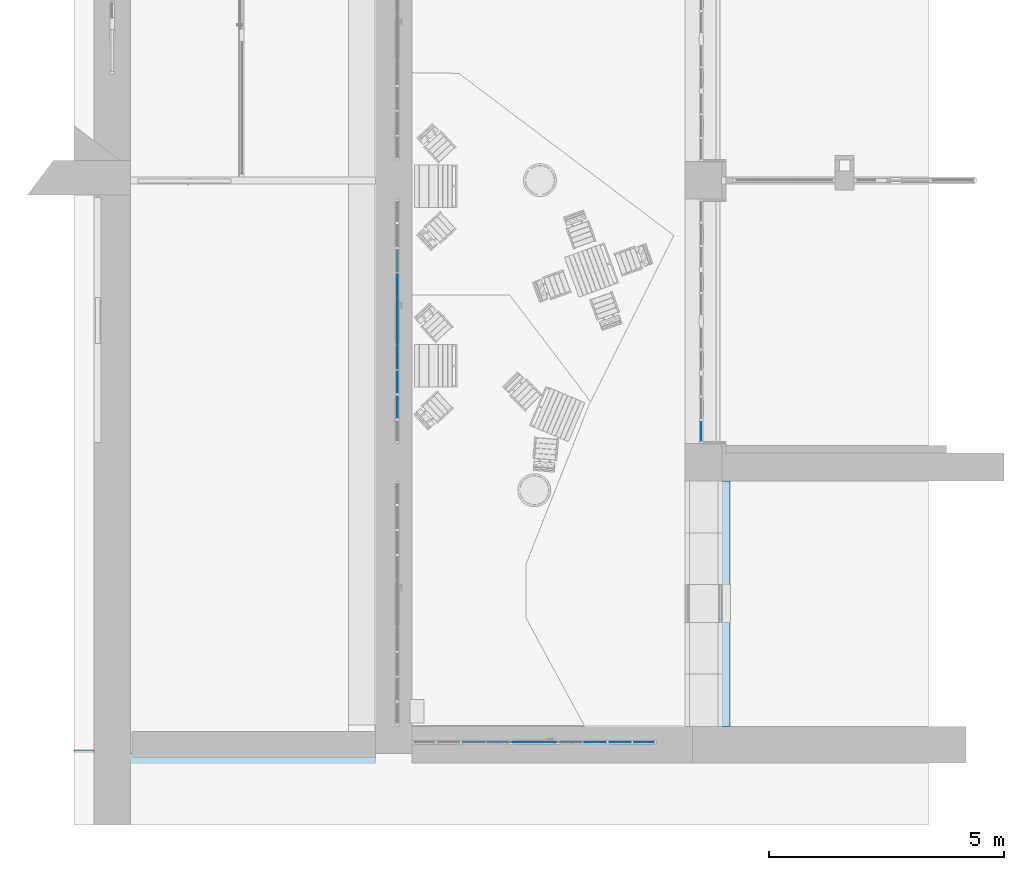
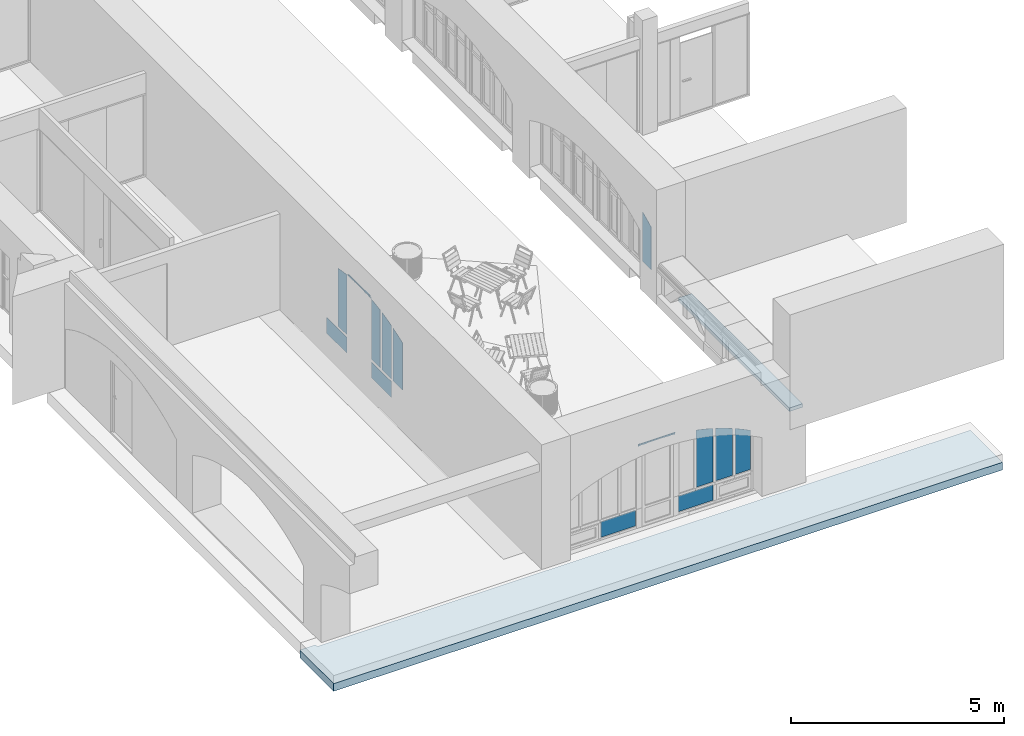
# One storey, part 51 of 88: 14 plates, 2 slabs, 4 elements without a shape of their own.
"""IFC2X3 building model written with IfcOpenShell, lengths in millimetres."""

from ifc_helpers import new_model, entity, si_unit, converted_unit, derived_unit, direction, frame, frame_2d, origin, origin_2d_with_axis, place, context, subcontext, project, spatial, polyline, circle_curve, parameter, trimmed, segment, composite_curve, rectangle, outline, extrude, face_set, surface_model, source, transform, mapped, material, layer, layer_set, layer_usage, type_object, type_shapes, element, aggregate, save


model = new_model("IFC2X3")

# Units and contexts
model_context = context("Model", 3, precision=0.01, world=origin(), true_north=direction((6.123031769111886e-17, 1.0)))
body_context = subcontext(model_context, "Body", "Model", "MODEL_VIEW")
ifc_project = project(units=[si_unit("LENGTHUNIT", "METRE", prefix="MILLI"), si_unit("AREAUNIT", "SQUARE_METRE"), si_unit("VOLUMEUNIT", "CUBIC_METRE"), converted_unit("PLANEANGLEUNIT", "DEGREE", entity("IfcPlaneAngleMeasure", 0.017453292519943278), si_unit("PLANEANGLEUNIT", "RADIAN"), dimensions=[0, 0, 0, 0, 0, 0, 0]), si_unit("MASSUNIT", "GRAM", prefix="KILO"), derived_unit("MASSDENSITYUNIT", [(si_unit("MASSUNIT", "GRAM", prefix="KILO"), 1), (si_unit("LENGTHUNIT", "METRE"), -3)]), derived_unit("IONCONCENTRATIONUNIT", [(si_unit("MASSUNIT", "GRAM", prefix="KILO"), 1), (si_unit("LENGTHUNIT", "METRE"), -3)]), derived_unit("MOMENTOFINERTIAUNIT", [(si_unit("LENGTHUNIT", "METRE"), 4)]), si_unit("TIMEUNIT", "SECOND"), si_unit("FREQUENCYUNIT", "HERTZ"), si_unit("THERMODYNAMICTEMPERATUREUNIT", "DEGREE_CELSIUS"), derived_unit("THERMALTRANSMITTANCEUNIT", [(si_unit("MASSUNIT", "GRAM", prefix="KILO"), 1), (si_unit("THERMODYNAMICTEMPERATUREUNIT", "KELVIN"), -1), (si_unit("TIMEUNIT", "SECOND"), -3)]), derived_unit("THERMALCONDUCTANCEUNIT", [(si_unit("MASSUNIT", "GRAM", prefix="KILO"), 1), (si_unit("THERMODYNAMICTEMPERATUREUNIT", "KELVIN"), -1), (si_unit("TIMEUNIT", "SECOND"), -3), (si_unit("LENGTHUNIT", "METRE"), 1)]), derived_unit("VOLUMETRICFLOWRATEUNIT", [(si_unit("LENGTHUNIT", "METRE", prefix="DECI"), 3), (si_unit("TIMEUNIT", "SECOND"), -1)]), derived_unit("MASSFLOWRATEUNIT", [(si_unit("MASSUNIT", "GRAM", prefix="KILO"), 1), (si_unit("TIMEUNIT", "SECOND"), -1)]), derived_unit("ROTATIONALFREQUENCYUNIT", [(si_unit("TIMEUNIT", "SECOND"), -1)]), si_unit("ELECTRICCURRENTUNIT", "AMPERE"), si_unit("ELECTRICVOLTAGEUNIT", "VOLT"), si_unit("POWERUNIT", "WATT"), si_unit("FORCEUNIT", "NEWTON", prefix="KILO"), si_unit("ILLUMINANCEUNIT", "LUX"), si_unit("LUMINOUSFLUXUNIT", "LUMEN"), si_unit("LUMINOUSINTENSITYUNIT", "CANDELA"), si_unit("ENERGYUNIT", "JOULE"), derived_unit("USERDEFINED", [(si_unit("MASSUNIT", "GRAM", prefix="KILO"), -1), (si_unit("LENGTHUNIT", "METRE"), -2), (si_unit("TIMEUNIT", "SECOND"), 3), (si_unit("LUMINOUSFLUXUNIT", "LUMEN"), 1)]), derived_unit("USERDEFINED", [(si_unit("MASSUNIT", "GRAM", prefix="KILO"), 1), (si_unit("TIMEUNIT", "SECOND"), -3), (si_unit("LENGTHUNIT", "METRE"), 3), (si_unit("ELECTRICCURRENTUNIT", "AMPERE"), -2)]), derived_unit("SOUNDPOWERUNIT", [(si_unit("MASSUNIT", "GRAM", prefix="KILO"), 1), (si_unit("TIMEUNIT", "SECOND"), -3), (si_unit("LENGTHUNIT", "METRE"), 2)]), derived_unit("SOUNDPRESSUREUNIT", [(si_unit("MASSUNIT", "GRAM", prefix="KILO"), 1), (si_unit("LENGTHUNIT", "METRE"), -1), (si_unit("TIMEUNIT", "SECOND"), -2)]), derived_unit("LINEARVELOCITYUNIT", [(si_unit("LENGTHUNIT", "METRE"), 1), (si_unit("TIMEUNIT", "SECOND"), -1)]), si_unit("PRESSUREUNIT", "PASCAL"), derived_unit("USERDEFINED", [(si_unit("MASSUNIT", "GRAM", prefix="KILO"), 1), (si_unit("LENGTHUNIT", "METRE"), -2), (si_unit("TIMEUNIT", "SECOND"), -2)]), derived_unit("LINEARFORCEUNIT", [(si_unit("MASSUNIT", "GRAM", prefix="KILO"), 1), (si_unit("TIMEUNIT", "SECOND"), -2)]), derived_unit("PLANARFORCEUNIT", [(si_unit("MASSUNIT", "GRAM", prefix="KILO"), 1), (si_unit("LENGTHUNIT", "METRE"), -1), (si_unit("TIMEUNIT", "SECOND"), -2)]), derived_unit("SPECIFICHEATCAPACITYUNIT", [(si_unit("THERMODYNAMICTEMPERATUREUNIT", "KELVIN"), -1), (si_unit("LENGTHUNIT", "METRE"), 2), (si_unit("TIMEUNIT", "SECOND"), -2)]), derived_unit("HEATFLUXDENSITYUNIT", [(si_unit("MASSUNIT", "GRAM", prefix="KILO"), 1), (si_unit("TIMEUNIT", "SECOND"), -3)]), derived_unit("HEATINGVALUEUNIT", [(si_unit("LENGTHUNIT", "METRE"), 2), (si_unit("TIMEUNIT", "SECOND"), -2)]), derived_unit("VAPORPERMEABILITYUNIT", [(si_unit("LENGTHUNIT", "METRE"), -1), (si_unit("TIMEUNIT", "SECOND"), 1)]), derived_unit("DYNAMICVISCOSITYUNIT", [(si_unit("MASSUNIT", "GRAM", prefix="KILO"), 1), (si_unit("TIMEUNIT", "SECOND"), -1), (si_unit("LENGTHUNIT", "METRE"), -1)]), derived_unit("THERMALEXPANSIONCOEFFICIENTUNIT", [(si_unit("THERMODYNAMICTEMPERATUREUNIT", "KELVIN"), -1)]), derived_unit("MODULUSOFELASTICITYUNIT", [(si_unit("MASSUNIT", "GRAM", prefix="KILO"), 1), (si_unit("LENGTHUNIT", "METRE"), -1), (si_unit("TIMEUNIT", "SECOND"), -2)]), derived_unit("ISOTHERMALMOISTURECAPACITYUNIT", [(si_unit("MASSUNIT", "GRAM", prefix="KILO"), -1), (si_unit("LENGTHUNIT", "METRE"), 3)]), derived_unit("MOISTUREDIFFUSIVITYUNIT", [(si_unit("TIMEUNIT", "SECOND"), -1), (si_unit("LENGTHUNIT", "METRE"), 2)]), derived_unit("MASSPERLENGTHUNIT", [(si_unit("MASSUNIT", "GRAM", prefix="KILO"), 1), (si_unit("LENGTHUNIT", "METRE"), -1)]), derived_unit("THERMALRESISTANCEUNIT", [(si_unit("MASSUNIT", "GRAM", prefix="KILO"), -1), (si_unit("TIMEUNIT", "SECOND"), 3), (si_unit("THERMODYNAMICTEMPERATUREUNIT", "KELVIN"), 1)]), derived_unit("ACCELERATIONUNIT", [(si_unit("LENGTHUNIT", "METRE"), 1), (si_unit("TIMEUNIT", "SECOND"), -2)]), derived_unit("ANGULARVELOCITYUNIT", [(si_unit("TIMEUNIT", "SECOND"), -1), (si_unit("PLANEANGLEUNIT", "RADIAN"), 1)]), derived_unit("LINEARSTIFFNESSUNIT", [(si_unit("MASSUNIT", "GRAM", prefix="KILO"), 1), (si_unit("TIMEUNIT", "SECOND"), -2)]), derived_unit("WARPINGCONSTANTUNIT", [(si_unit("LENGTHUNIT", "METRE"), 6)]), derived_unit("LINEARMOMENTUNIT", [(si_unit("MASSUNIT", "GRAM", prefix="KILO"), 1), (si_unit("LENGTHUNIT", "METRE"), 1), (si_unit("TIMEUNIT", "SECOND"), -2)]), derived_unit("TORQUEUNIT", [(si_unit("MASSUNIT", "GRAM", prefix="KILO"), 1), (si_unit("LENGTHUNIT", "METRE"), 2), (si_unit("TIMEUNIT", "SECOND"), -2)])], contexts=[model_context])

# Site, building, storey
site_placement = place(None, origin())
site = spatial("IfcSite", under=ifc_project, at=site_placement, Name="Default", CompositionType="ELEMENT")
building_placement = place(site_placement, origin())
building = spatial("IfcBuilding", under=site, at=building_placement, Name="Eesti Rahvusraamatukogu hoone renoveerimise projekteerimistööd", CompositionType="ELEMENT")
storey_placement = place(building_placement, origin())
storey = spatial("IfcBuildingStorey", under=building, at=storey_placement, Name="1. korrus", CompositionType="ELEMENT", Elevation=0.0)

# Slab
ifc_material_1 = material(Name="ol. olev materjal")
ifc_layer_1 = layer(ifc_material_1, 220.0)
ifc_layer_set_1 = layer_set([ifc_layer_1], Name="Floor:ol. olev - 220mm")
ifc_layer_usage = layer_usage(ifc_layer_set_1, "AXIS3", "POSITIVE", 0.0)
slab_type = type_object("IfcSlabType", Name="Floor:ol. olev - 220mm", PredefinedType="FLOOR", material=ifc_layer_set_1)
slab_1_placement = place(storey_placement, origin())
element("IfcSlab", 1, at=slab_1_placement, inside=storey, type_object=slab_type, material=ifc_layer_usage, Name="Floor:ol. olev - 220mm", ObjectType="Floor:ol. olev - 220mm", PredefinedType="FLOOR", context=body_context, shape_type="SweptSolid", body=[
    extrude(outline(polyline([(-1038.3393892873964, -6197.812577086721), (559.3989884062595, -6197.812577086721), (559.3989884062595, -5776.184495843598), (478.94040088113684, -5776.184495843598), (478.94040088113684, 11973.997072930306), (-1038.3393892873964, 11973.997072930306), (-1038.3393892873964, -6197.812577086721)])), frame((-43583.81550415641, -282.9404008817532, -230.0), z_axis=(0.0, 0.0, -1.0), x_axis=(0.0, 1.0, 0.0)), (0.0, 0.0, 1.0), 220.00000000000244),
])

# Curtain wall, plate
curtain_wall_type_1 = type_object("IfcCurtainWallType", Name="Curtain Wall:Ak-02", PredefinedType="NOTDEFINED")
curtain_wall_1_placement = place(storey_placement, origin())
curtain_wall_1 = element("IfcCurtainWall", 2, at=curtain_wall_1_placement, inside=storey, type_object=curtain_wall_type_1, Name="Curtain Wall:Ak-02", ObjectType="Curtain Wall:Ak-02")
ifc_material_2 = material(Name="EST. Klaas. 3x. Default")
plate_type_1 = type_object("IfcPlateType", Name="System Panel:Peegelaknad 6-16-4-16-4, paneel", PredefinedType="CURTAIN_PANEL", material=ifc_material_2)
shared_shape_1 = source(origin(), body_context, "Body", "SweptSolid", [
    extrude(outline(composite_curve([segment(polyline([(-838.8855000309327, 200.0), (-838.8855000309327, -200.0)]), True, "CONTINUOUS"), segment(polyline([(-838.8855000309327, -200.0), (351.11449996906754, -200.0)]), True, "CONTINUOUS"), segment(polyline([(351.11449996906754, -200.0), (392.39316487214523, -200.0)]), True, "CONTINUOUS"), segment(trimmed(circle_curve(frame_2d((-4419.029401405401, 2340.0), x_axis=(0.8821580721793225, -0.4709534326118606)), 5440.715680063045), [parameter(0.2661645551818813)], [parameter(4.934304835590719)], True, "PARAMETER"), True, "CONTINUOUS"), segment(polyline([(583.1488352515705, 200.0), (351.11449996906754, 200.0)]), True, "CONTINUOUS"), segment(polyline([(351.11449996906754, 200.0), (-838.8855000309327, 200.0)]), True, "CONTINUOUS")], self_intersect=False)), frame((0.0, -5.0, 838.8855000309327), z_axis=(0.0, -1.0, 0.0), x_axis=(0.0, 0.0, 1.0)), (0.0, 0.0, -1.0), 10.0),
])
type_shapes(plate_type_1, [shared_shape_1])
plate_1_placement = place(curtain_wall_1_placement, frame((-36440.0, 7050.0, 2030.0), z_axis=(0.0, 0.0, 1.0), x_axis=(0.0, -1.0, 0.0)))
plate_1 = element("IfcPlate", 3, at=plate_1_placement, type_object=plate_type_1, material=ifc_material_2, Name="System Panel:Peegelaknad 6-16-4-16-4, paneel", ObjectType="System Panel:Peegelaknad 6-16-4-16-4, paneel", context=body_context, shape_type="MappedRepresentation", body=[
    mapped(shared_shape_1, transform((0.0, 0.0, 0.0), scale=1.0)),
])
aggregate(curtain_wall_1, [plate_1])

# Curtain wall, plates
curtain_wall_type_2 = type_object("IfcCurtainWallType", Name="Curtain Wall:Ak-05*", PredefinedType="NOTDEFINED")
curtain_wall_2_placement = place(storey_placement, origin())
curtain_wall_2 = element("IfcCurtainWall", 4, at=curtain_wall_2_placement, inside=storey, type_object=curtain_wall_type_2, Name="Curtain Wall:Ak-05*", ObjectType="Curtain Wall:Ak-05*")
plate_type_2 = type_object("IfcPlateType", Name="System Panel:Peegelaknad 6-16-4-16-4, paneel", PredefinedType="CURTAIN_PANEL", material=ifc_material_2)
shared_shape_2 = source(origin(), body_context, "Body", "SweptSolid", [
    extrude(rectangle(XDim=450.00000000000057, YDim=944.9999999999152, at=frame_2d((0.0, -5.833333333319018), x_axis=(1.0, 0.0))), frame((5.833333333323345, -5.0, 225.0), z_axis=(0.0, 1.0, 0.0), x_axis=(0.0, 0.0, 1.0)), (0.0, 0.0, 1.0), 10.0),
])
type_shapes(plate_type_2, [shared_shape_2])
plate_2_placement = place(curtain_wall_2_placement, frame((-42905.0, 10437.499999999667, 10.0), z_axis=(0.0, 0.0, 1.0), x_axis=(0.0, -1.0, 0.0)))
plate_2 = element("IfcPlate", 5, at=plate_2_placement, type_object=plate_type_2, material=ifc_material_2, Name="System Panel:Peegelaknad 6-16-4-16-4, paneel", ObjectType="System Panel:Peegelaknad 6-16-4-16-4, paneel", context=body_context, shape_type="MappedRepresentation", body=[
    mapped(shared_shape_2, transform((0.0, 0.0, 0.0), scale=1.0)),
])
plate_type_3 = type_object("IfcPlateType", Name="System Panel:Peegelaknad 6-16-4-16-4, paneel", PredefinedType="CURTAIN_PANEL", material=ifc_material_2)
shared_shape_3 = source(origin(), body_context, "Body", "SweptSolid", [
    extrude(rectangle(XDim=450.00000000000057, YDim=945.0000000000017, at=frame_2d((0.0, 5.833333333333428), x_axis=(1.0, 0.0))), frame((-5.8333333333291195, -5.0, 225.0), z_axis=(0.0, 1.0, 0.0), x_axis=(0.0, 0.0, 1.0)), (0.0, 0.0, 1.0), 10.0),
])
type_shapes(plate_type_3, [shared_shape_3])
plate_3_placement = place(curtain_wall_2_placement, frame((-42905.0, 8342.49999999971, 10.0), z_axis=(0.0, 0.0, 1.0), x_axis=(0.0, -1.0, 0.0)))
plate_3 = element("IfcPlate", 6, at=plate_3_placement, type_object=plate_type_3, material=ifc_material_2, Name="System Panel:Peegelaknad 6-16-4-16-4, paneel", ObjectType="System Panel:Peegelaknad 6-16-4-16-4, paneel", context=body_context, shape_type="MappedRepresentation", body=[
    mapped(shared_shape_3, transform((0.0, 0.0, 0.0), scale=1.0)),
])
plate_type_4 = type_object("IfcPlateType", Name="System Panel:Peegelaknad 6-16-4-16-4, paneel", PredefinedType="CURTAIN_PANEL", material=ifc_material_2)
shared_shape_4 = source(origin(), body_context, "Body", "SurfaceModel", [
    surface_model("IfcFaceBasedSurfaceModel", [(-245.0, -5.0, 0.0), (170.0, -5.0, 0.0), (170.0, -5.0, 1750.0), (245.0, -5.0, 1750.0), (245.0, -5.0, 1727.0718621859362), (93.20177957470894, -5.0, 1710.979164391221), (-58.08758672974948, -5.0, 1690.6517865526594), (-151.67863011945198, -5.0, 1675.9125069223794), (-245.0, -5.0, 1659.5524430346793), (-245.0, 5.0, 0.0), (-245.0, 5.0, 1659.5524430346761), (-151.67863011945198, 5.0, 1675.9125069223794), (-58.08758672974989, 5.0, 1690.6517865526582), (93.20177957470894, 5.0, 1710.979164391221), (245.0, 5.0, 1727.071862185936), (245.0, 5.0, 1750.0), (170.0, 5.0, 1750.0), (170.0, 5.0, 0.0)], [face_set([[[0, 1, 2, 3, 4, 5, 6, 7, 8]], [[9, 10, 11, 12, 13, 14, 15, 16, 17]], [[1, 0, 9, 17]], [[2, 1, 17, 16]], [[3, 15, 16, 2]], [[4, 14, 15, 3]], [[5, 4, 14, 13]], [[12, 6, 5, 13]], [[7, 6, 12, 11]], [[10, 8, 7, 11]], [[0, 8, 10, 9]]])]),
])
type_shapes(plate_type_4, [shared_shape_4])
plate_4_placement = place(curtain_wall_2_placement, frame((-42905.0, 10135.0, 540.0), z_axis=(0.0, 0.0, 1.0), x_axis=(0.0, -1.0, 0.0)))
plate_4 = element("IfcPlate", 7, at=plate_4_placement, type_object=plate_type_4, material=ifc_material_2, Name="System Panel:Peegelaknad 6-16-4-16-4, paneel", ObjectType="System Panel:Peegelaknad 6-16-4-16-4, paneel", context=body_context, shape_type="MappedRepresentation", body=[
    mapped(shared_shape_4, transform((0.0, 0.0, 0.0), scale=1.0)),
])
plate_type_5 = type_object("IfcPlateType", Name="System Panel:Peegelaknad 6-16-4-16-4, paneel", PredefinedType="CURTAIN_PANEL", material=ifc_material_2)
shared_shape_5 = source(origin(), body_context, "Body", "SurfaceModel", [
    surface_model("IfcFaceBasedSurfaceModel", [(-170.0, -5.0, 0.0), (245.0, -5.0, 0.0), (245.0, -5.0, 1659.5524430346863), (151.67863011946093, -5.0, 1675.9125069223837), (58.08758672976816, -5.0, 1690.6517865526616), (-93.2017795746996, -5.0, 1710.979164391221), (-245.0, -5.0, 1727.071862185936), (-245.0, -5.0, 1750.0), (-170.0, -5.0, 1750.0), (-170.0, 5.0, 0.0), (245.0, 5.0, 0.0), (245.0, 5.0, 1659.552443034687), (151.67863011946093, 5.0, 1675.9125069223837), (58.08758672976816, 5.0, 1690.6517865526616), (-93.2017795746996, 5.0, 1710.979164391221), (-245.0, 5.0, 1727.071862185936), (-245.0, 5.0, 1750.0), (-170.0, 5.0, 1750.0)], [face_set([[[0, 1, 2, 3, 4, 5, 6, 7, 8]], [[9, 10, 11, 12, 13, 14, 15, 16, 17]], [[1, 0, 9, 10]], [[2, 1, 10, 11]], [[3, 2, 11, 12]], [[13, 4, 3, 12]], [[4, 13, 14, 5]], [[15, 6, 5, 14]], [[7, 16, 15, 6]], [[8, 17, 16, 7]], [[0, 8, 17, 9]]])]),
])
type_shapes(plate_type_5, [shared_shape_5])
plate_5_placement = place(curtain_wall_2_placement, frame((-42905.0, 8645.0, 540.0), z_axis=(0.0, 0.0, 1.0), x_axis=(0.0, -1.0, 0.0)))
plate_5 = element("IfcPlate", 8, at=plate_5_placement, type_object=plate_type_5, material=ifc_material_2, Name="System Panel:Peegelaknad 6-16-4-16-4, paneel", ObjectType="System Panel:Peegelaknad 6-16-4-16-4, paneel", context=body_context, shape_type="MappedRepresentation", body=[
    mapped(shared_shape_5, transform((0.0, 0.0, 0.0), scale=1.0)),
])
plate_type_6 = type_object("IfcPlateType", Name="System Panel:Peegelaknad 6-16-4-16-4, paneel", PredefinedType="CURTAIN_PANEL", material=ifc_material_2)
shared_shape_6 = source(origin(), body_context, "Body", "SweptSolid", [
    extrude(outline(composite_curve([segment(polyline([(-794.621917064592, 225.0), (-794.621917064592, -225.0)]), True, "CONTINUOUS"), segment(polyline([(-794.621917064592, -225.0), (739.6716748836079, -225.0)]), True, "CONTINUOUS"), segment(trimmed(circle_curve(frame_2d((-4507.902483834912, 1295.0), x_axis=(0.9592847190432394, -0.2824408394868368)), 5463.280566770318), [parameter(0.25187197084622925)], [parameter(5.111376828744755)], True, "PARAMETER"), True, "CONTINUOUS"), segment(polyline([(849.5721592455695, 225.0), (-794.621917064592, 225.0)]), True, "CONTINUOUS")], self_intersect=False)), frame((0.0, -5.0, 794.621917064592), z_axis=(0.0, -1.0, 0.0), x_axis=(0.0, 0.0, 1.0)), (0.0, 0.0, -1.0), 10.0),
])
type_shapes(plate_type_6, [shared_shape_6])
plate_6_placement = place(curtain_wall_2_placement, frame((-42905.0, 8095.0, 540.0), z_axis=(0.0, 0.0, 1.0), x_axis=(0.0, -1.0, 0.0)))
plate_6 = element("IfcPlate", 9, at=plate_6_placement, type_object=plate_type_6, material=ifc_material_2, Name="System Panel:Peegelaknad 6-16-4-16-4, paneel", ObjectType="System Panel:Peegelaknad 6-16-4-16-4, paneel", context=body_context, shape_type="MappedRepresentation", body=[
    mapped(shared_shape_6, transform((0.0, 0.0, 0.0), scale=1.0)),
])
plate_type_7 = type_object("IfcPlateType", Name="System Panel:Peegelaknad 6-16-4-16-4, paneel", PredefinedType="CURTAIN_PANEL", material=ifc_material_2)
shared_shape_7 = source(origin(), body_context, "Body", "SweptSolid", [
    extrude(outline(composite_curve([segment(polyline([(-715.3148161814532, 225.0), (-715.3148161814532, -225.0)]), True, "CONTINUOUS"), segment(polyline([(-715.3148161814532, -225.0), (635.4874117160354, -225.0)]), True, "CONTINUOUS"), segment(trimmed(circle_curve(frame_2d((-4428.59538295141, 1825.0), x_axis=(0.9256428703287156, -0.3783983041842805)), 5463.280566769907), [parameter(0.19582649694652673)], [parameter(5.204987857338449)], True, "PARAMETER"), True, "CONTINUOUS"), segment(polyline([(795.1422206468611, 225.0), (-715.3148161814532, 225.0)]), True, "CONTINUOUS")], self_intersect=False)), frame((0.0, -5.0, 715.3148161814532), z_axis=(0.0, -1.0, 0.0), x_axis=(0.0, 0.0, 1.0)), (0.0, 0.0, -1.0), 10.0),
])
type_shapes(plate_type_7, [shared_shape_7])
plate_7_placement = place(curtain_wall_2_placement, frame((-42905.0, 7565.0, 540.0), z_axis=(0.0, 0.0, 1.0), x_axis=(0.0, -1.0, 0.0)))
plate_7 = element("IfcPlate", 10, at=plate_7_placement, type_object=plate_type_7, material=ifc_material_2, Name="System Panel:Peegelaknad 6-16-4-16-4, paneel", ObjectType="System Panel:Peegelaknad 6-16-4-16-4, paneel", context=body_context, shape_type="MappedRepresentation", body=[
    mapped(shared_shape_7, transform((0.0, 0.0, 0.0), scale=1.0)),
])
ifc_material_3 = material(Name="<Unnamed>")
plate_type_8 = type_object("IfcPlateType", Name="System Panel:Peegelaknad 6-16-4-16-4, paneel", PredefinedType="CURTAIN_PANEL", material=ifc_material_3)
shared_shape_8 = source(origin(), body_context, "Body", "SweptSolid", [
    extrude(outline(composite_curve([segment(polyline([(18.907544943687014, -500.34273422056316), (71.61836514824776, -495.5513663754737)]), True, "CONTINUOUS"), segment(polyline([(71.61836514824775, -495.5513663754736), (-18.907544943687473, 500.3427342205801)]), True, "CONTINUOUS"), segment(polyline([(-18.907544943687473, 500.3427342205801), (-71.61836514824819, 495.5513663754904)]), True, "CONTINUOUS"), segment(trimmed(circle_curve(frame_2d((-5444.3702992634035, -494.8885387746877), x_axis=(1.0, 0.0)), 5463.280566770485), [parameter(359.94279949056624)], [parameter(10.444926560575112)], True, "PARAMETER"), False, "CONTINUOUS")], self_intersect=False)), frame((0.0, -5.0, 26.46406890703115), z_axis=(0.0, -1.0, 0.0), x_axis=(0.0905259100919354, 0.0, 0.9958941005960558)), (0.0, 0.0, -1.0), 10.0),
])
type_shapes(plate_type_8, [shared_shape_8])
plate_8_placement = place(curtain_wall_2_placement, frame((-42905.0, 9390.0, 2267.0718621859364), z_axis=(0.0, 0.0, 1.0), x_axis=(0.0, -1.0, 0.0)))
plate_8 = element("IfcPlate", 11, at=plate_8_placement, type_object=plate_type_8, material=ifc_material_3, Name="System Panel:Peegelaknad 6-16-4-16-4, paneel", ObjectType="System Panel:Peegelaknad 6-16-4-16-4, paneel", context=body_context, shape_type="MappedRepresentation", body=[
    mapped(shared_shape_8, transform((0.0, 0.0, 0.0), scale=1.0)),
])
aggregate(curtain_wall_2, [plate_2, plate_3, plate_4, plate_5, plate_6, plate_7, plate_8])

curtain_wall_type_3 = type_object("IfcCurtainWallType", Name="Curtain Wall:Ak-05", PredefinedType="NOTDEFINED")
curtain_wall_3_placement = place(storey_placement, origin())
curtain_wall_3 = element("IfcCurtainWall", 12, at=curtain_wall_3_placement, inside=storey, type_object=curtain_wall_type_3, Name="Curtain Wall:Ak-05", ObjectType="Curtain Wall:Ak-05")
plate_type_9 = type_object("IfcPlateType", Name="System Panel:Peegelaknad 6-16-4-16-4, paneel", PredefinedType="CURTAIN_PANEL", material=ifc_material_2)
shared_shape_9 = source(origin(), body_context, "Body", "SweptSolid", [
    extrude(rectangle(XDim=450.00000000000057, YDim=944.9999999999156, at=frame_2d((0.0, -5.833333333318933), x_axis=(1.0, 0.0))), frame((5.833333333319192, -5.0, 225.0), z_axis=(0.0, 1.0, 0.0), x_axis=(0.0, 0.0, 1.0)), (0.0, 0.0, 1.0), 10.0),
])
type_shapes(plate_type_9, [shared_shape_9])
plate_9_placement = place(curtain_wall_3_placement, frame((-38942.50000000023, 440.0, 10.0), z_axis=(0.0, 0.0, 1.0), x_axis=(-1.0, 0.0, 0.0)))
plate_9 = element("IfcPlate", 13, at=plate_9_placement, type_object=plate_type_9, material=ifc_material_2, Name="System Panel:Peegelaknad 6-16-4-16-4, paneel", ObjectType="System Panel:Peegelaknad 6-16-4-16-4, paneel", context=body_context, shape_type="MappedRepresentation", body=[
    mapped(shared_shape_9, transform((0.0, 0.0, 0.0), scale=1.0)),
])
plate_type_10 = type_object("IfcPlateType", Name="System Panel:Peegelaknad 6-16-4-16-4, paneel", PredefinedType="CURTAIN_PANEL", material=ifc_material_2)
shared_shape_10 = source(origin(), body_context, "Body", "SweptSolid", [
    extrude(rectangle(XDim=450.00000000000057, YDim=945.0000000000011, at=frame_2d((0.0, 5.833333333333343), x_axis=(1.0, 0.0))), frame((-5.8333333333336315, -5.0, 225.0), z_axis=(0.0, 1.0, 0.0), x_axis=(0.0, 0.0, 1.0)), (0.0, 0.0, 1.0), 10.0),
])
type_shapes(plate_type_10, [shared_shape_10])
plate_10_placement = place(curtain_wall_3_placement, frame((-41037.50000000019, 440.0, 10.0), z_axis=(0.0, 0.0, 1.0), x_axis=(-1.0, 0.0, 0.0)))
plate_10 = element("IfcPlate", 14, at=plate_10_placement, type_object=plate_type_10, material=ifc_material_2, Name="System Panel:Peegelaknad 6-16-4-16-4, paneel", ObjectType="System Panel:Peegelaknad 6-16-4-16-4, paneel", context=body_context, shape_type="MappedRepresentation", body=[
    mapped(shared_shape_10, transform((0.0, 0.0, 0.0), scale=1.0)),
])
plate_type_11 = type_object("IfcPlateType", Name="System Panel:Peegelaknad 6-16-4-16-4, paneel", PredefinedType="CURTAIN_PANEL", material=ifc_material_2)
shared_shape_11 = source(origin(), body_context, "Body", "SweptSolid", [
    extrude(outline(composite_curve([segment(polyline([(-610.3301409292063, -205.0), (513.3133718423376, -205.0)]), True, "CONTINUOUS"), segment(trimmed(circle_curve(frame_2d((-4323.610707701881, 2335.0), x_axis=(0.9256428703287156, -0.37839830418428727)), 5463.280566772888), [parameter(354.52932306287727)], [parameter(359.28774367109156)], True, "PARAMETER"), True, "CONTINUOUS"), segment(polyline([(707.3469100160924, 205.0), (-610.3301409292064, 205.0)]), True, "CONTINUOUS"), segment(polyline([(-610.3301409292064, 205.0), (-610.3301409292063, -205.0)]), True, "CONTINUOUS")], self_intersect=False)), frame((0.0, -5.0, 610.3301409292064), z_axis=(0.0, 1.0, 0.0), x_axis=(0.0, 0.0, 1.0)), (0.0, 0.0, 1.0), 10.0),
])
type_shapes(plate_type_11, [shared_shape_11])
plate_11_placement = place(curtain_wall_3_placement, frame((-37655.0, 440.0, 540.0), z_axis=(0.0, 0.0, 1.0), x_axis=(-1.0, 0.0, 0.0)))
plate_11 = element("IfcPlate", 15, at=plate_11_placement, type_object=plate_type_11, material=ifc_material_2, Name="System Panel:Peegelaknad 6-16-4-16-4, paneel", ObjectType="System Panel:Peegelaknad 6-16-4-16-4, paneel", context=body_context, shape_type="MappedRepresentation", body=[
    mapped(shared_shape_11, transform((0.0, 0.0, 0.0), scale=1.0)),
])
plate_type_12 = type_object("IfcPlateType", Name="System Panel:Peegelaknad 6-16-4-16-4, paneel", PredefinedType="CURTAIN_PANEL", material=ifc_material_2)
shared_shape_12 = source(origin(), body_context, "Body", "SweptSolid", [
    extrude(outline(composite_curve([segment(polyline([(-715.3148161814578, -225.0), (635.4874117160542, -225.0)]), True, "CONTINUOUS"), segment(trimmed(circle_curve(frame_2d((-4428.595382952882, 1825.0), x_axis=(0.9592847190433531, -0.2824408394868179)), 5463.280566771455), [parameter(354.36725712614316)], [parameter(359.3764184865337)], True, "PARAMETER"), True, "CONTINUOUS"), segment(polyline([(795.1422206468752, 225.0), (-715.3148161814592, 225.0)]), True, "CONTINUOUS"), segment(polyline([(-715.3148161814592, 225.0), (-715.3148161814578, -225.0)]), True, "CONTINUOUS")], self_intersect=False)), frame((0.0, -5.0, 715.3148161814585), z_axis=(0.0, 1.0, 0.0), x_axis=(0.0, 0.0, 1.0)), (0.0, 0.0, 1.0), 10.0),
])
type_shapes(plate_type_12, [shared_shape_12])
plate_12_placement = place(curtain_wall_3_placement, frame((-38165.0, 440.0, 540.0), z_axis=(0.0, 0.0, 1.0), x_axis=(-1.0, 0.0, 0.0)))
plate_12 = element("IfcPlate", 16, at=plate_12_placement, type_object=plate_type_12, material=ifc_material_2, Name="System Panel:Peegelaknad 6-16-4-16-4, paneel", ObjectType="System Panel:Peegelaknad 6-16-4-16-4, paneel", context=body_context, shape_type="MappedRepresentation", body=[
    mapped(shared_shape_12, transform((0.0, 0.0, 0.0), scale=1.0)),
])
plate_type_13 = type_object("IfcPlateType", Name="System Panel:Peegelaknad 6-16-4-16-4, paneel", PredefinedType="CURTAIN_PANEL", material=ifc_material_2)
shared_shape_13 = source(origin(), body_context, "Body", "SweptSolid", [
    extrude(outline(composite_curve([segment(polyline([(-794.6219170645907, -225.0), (739.6716748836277, -225.0)]), True, "CONTINUOUS"), segment(trimmed(circle_curve(frame_2d((-4507.902483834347, 1295.0), x_axis=(0.9824581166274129, -0.18648337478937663)), 5463.28056676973), [parameter(354.5935648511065)], [parameter(359.45306970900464)], True, "PARAMETER"), True, "CONTINUOUS"), segment(polyline([(849.572159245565, 225.0), (-794.6219170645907, 225.0)]), True, "CONTINUOUS"), segment(polyline([(-794.6219170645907, 225.0), (-794.6219170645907, -225.0)]), True, "CONTINUOUS")], self_intersect=False)), frame((0.0, -5.0, 794.6219170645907), z_axis=(0.0, 1.0, 0.0), x_axis=(0.0, 0.0, 1.0)), (0.0, 0.0, 1.0), 10.0),
])
type_shapes(plate_type_13, [shared_shape_13])
plate_13_placement = place(curtain_wall_3_placement, frame((-38695.0, 440.0, 540.0), z_axis=(0.0, 0.0, 1.0), x_axis=(-1.0, 0.0, 0.0)))
plate_13 = element("IfcPlate", 17, at=plate_13_placement, type_object=plate_type_13, material=ifc_material_2, Name="System Panel:Peegelaknad 6-16-4-16-4, paneel", ObjectType="System Panel:Peegelaknad 6-16-4-16-4, paneel", context=body_context, shape_type="MappedRepresentation", body=[
    mapped(shared_shape_13, transform((0.0, 0.0, 0.0), scale=1.0)),
])
plate_type_14 = type_object("IfcPlateType", Name="System Panel:Peegelaknad 6-16-4-16-4, paneel", PredefinedType="CURTAIN_PANEL", material=ifc_material_3)
shared_shape_14 = source(origin(), body_context, "Body", "SweptSolid", [
    extrude(outline(composite_curve([segment(polyline([(18.90754494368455, -500.3427342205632), (71.61836514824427, -495.55136637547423)]), True, "CONTINUOUS"), segment(polyline([(71.61836514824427, -495.55136637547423), (-18.907544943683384, 500.3427342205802)]), True, "CONTINUOUS"), segment(polyline([(-18.907544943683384, 500.3427342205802), (-71.61836514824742, 495.55136637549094)]), True, "CONTINUOUS"), segment(trimmed(circle_curve(frame_2d((-5444.370299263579, -494.88853877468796), x_axis=(1.0, 0.0)), 5463.28056677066), [parameter(359.94279949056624)], [parameter(10.444926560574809)], True, "PARAMETER"), False, "CONTINUOUS")], self_intersect=False)), frame((0.0, -5.0, 26.46406890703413), z_axis=(0.0, -1.0, 0.0), x_axis=(0.09052591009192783, 0.0, 0.9958941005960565)), (0.0, 0.0, -1.0), 9.999999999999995),
])
type_shapes(plate_type_14, [shared_shape_14])
plate_14_placement = place(curtain_wall_3_placement, frame((-39990.0, 440.0, 2267.0718621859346), z_axis=(0.0, 0.0, 1.0), x_axis=(-1.0, 0.0, 0.0)))
plate_14 = element("IfcPlate", 18, at=plate_14_placement, type_object=plate_type_14, material=ifc_material_3, Name="System Panel:Peegelaknad 6-16-4-16-4, paneel", ObjectType="System Panel:Peegelaknad 6-16-4-16-4, paneel", context=body_context, shape_type="MappedRepresentation", body=[
    mapped(shared_shape_14, transform((0.0, 0.0, 0.0), scale=1.0)),
])
aggregate(curtain_wall_3, [plate_9, plate_10, plate_11, plate_12, plate_13, plate_14])

# Roof, slab
ifc_layer_2 = layer(ifc_material_1, 100.0)
ifc_layer_set_2 = layer_set([ifc_layer_2], Name="Basic Roof:ol. olev - 100mm")
roof_placement = place(storey_placement, frame((-36190.17342295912, 780.0, 1550.0)))
roof = element("IfcRoof", 19, at=roof_placement, inside=storey, material=ifc_layer_set_2, Name="Basic Roof:ol. olev - 100mm", ObjectType="Basic Roof:ol. olev - 100mm", ShapeType="NOTDEFINED")
slab_2_placement = place(roof_placement, origin())
slab_2 = element("IfcSlab", 20, at=slab_2_placement, material=ifc_layer_set_2, Name="Basic Roof:ol. olev - 100mm", ObjectType="Basic Roof:ol. olev - 100mm", PredefinedType="ROOF", context=body_context, shape_type="SweptSolid", body=[
    extrude(rectangle(XDim=362.6734229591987, YDim=5219.999999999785, at=origin_2d_with_axis()), frame((181.33671147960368, 2610.0, 0.0)), (0.0, 0.0, 1.0), 100.0),
])
aggregate(roof, [slab_2])

save(model, "model.ifc")
